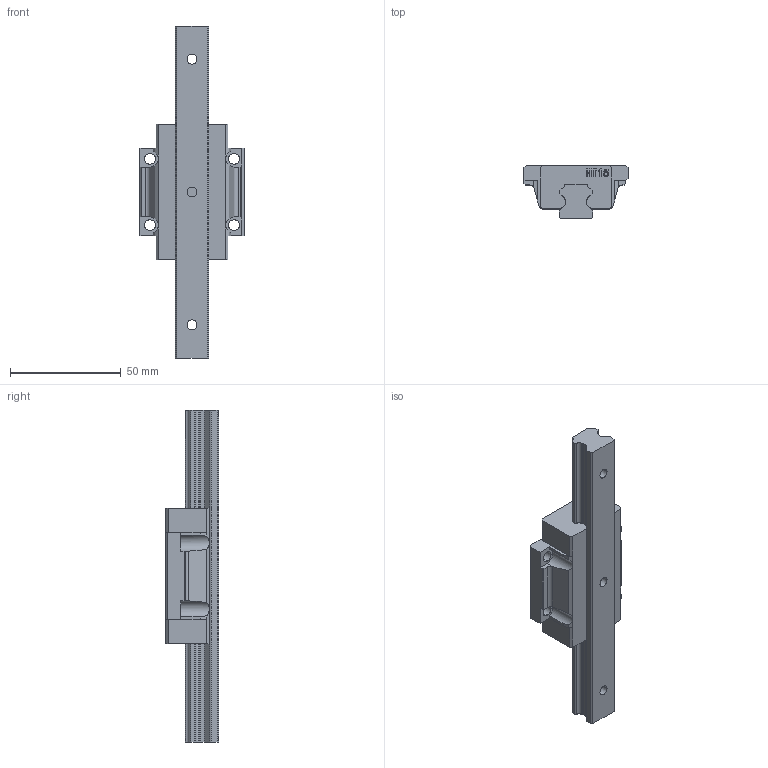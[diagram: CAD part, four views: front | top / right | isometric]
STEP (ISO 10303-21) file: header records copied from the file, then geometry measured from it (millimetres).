
FILE_DESCRIPTION (( 'STEP AP214' ), '1' );
FILE_NAME ('7.1001 Lineaarikelkka HTW15CC.STEP', '2026-03-11T10:52:26', ( '' ), ( '' ), 'SwSTEP 2.0', 'SolidWorks 2025', '' );
FILE_SCHEMA (( 'AUTOMOTIVE_DESIGN' ));
Length unit declared in the file: millimetre
Products named in the file (3): 7.1001 Lineaarikelkka HTW15CC; HTR15; HTW15
Assembly tree (2 placements, depth 2):
  7.1001 Lineaarikelkka HTW15CC
    HTW15
    HTR15
Bounding box: 47 x 24 x 150 mm (x, y, z)
Volume: 63031.3 mm3; surface area: 20822.3 mm2
Topology: 2 solids, 2 shells, 736 faces, 2077 edges, 1382 vertices
Faces by surface type: plane 661, cylinder 52, bspline 23
Entity records: 33229 total; most frequent: CARTESIAN_POINT 6031, ORIENTED_EDGE 4154, DIRECTION 3551, EDGE_CURVE 2077, VECTOR 1907, LINE 1907, VERTEX_POINT 1382, AXIS2_PLACEMENT_3D 822
